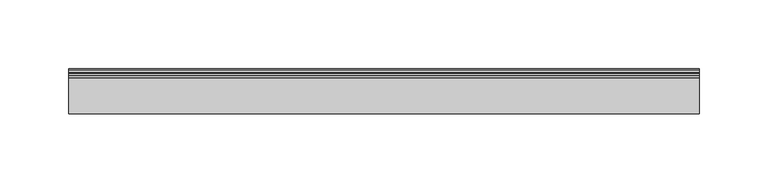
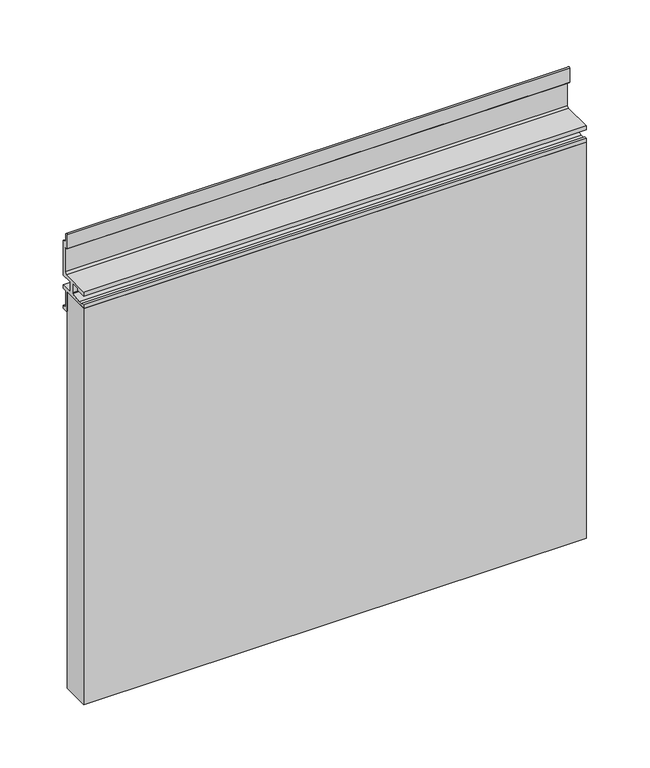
"""IFC4 building model written with IfcOpenShell, lengths in millimetres: furniture geometry, Geiger_GeigerOneCasegoods_WallTileAcceptsShelfandTileAboveFabr : 18Wx 1.25Dx 15H."""

from ifc_helpers import new_model, si_unit, point, frame, frame_2d, origin, origin_with_axes, place, context, project, spatial, polyline, circle_curve, trimmed, segment, composite_curve, outline, extrude, source, transform, mapped, element, save


def furniture_c3ae807a(model_context):
    return source(origin(), model_context, "Body", "SweptSolid", [
        extrude(outline(composite_curve([segment(polyline([(-3.5052, 46.3366), (-2.6924, 45.5238), (-0.8128, 45.5238), (0.0, 44.7364), (0.0, 31.3252)]), True, "CONTINUOUS"), segment(trimmed(circle_curve(frame_2d((-0.8034421, 31.3345579)), 0.8034966), [point((0.0, 31.3252))], [point((-1.3716, 30.7664))], False, "CARTESIAN"), True, "CONTINUOUS"), segment(polyline([(-1.3716, 30.7664), (-2.8956, 32.2904), (-2.8956, 39.2246), (-3.7084, 40.012), (-5.6134, 40.012), (-6.4008, 40.8248), (-6.4008, 72.524), (-5.1054, 72.524), (-3.5052, 70.9238), (-3.5052, 46.3366)]), True, "CONTINUOUS")], self_intersect=False)), frame((331.2, 0.0, 0.0), z_axis=(1.0, 0.0, 0.0), x_axis=(0.0, 1.0, 0.0)), (0.0, 0.0, 1.0), 76.0),
        extrude(outline(composite_curve([segment(polyline([(-2.8956, 32.2904), (-2.8956, 39.2246), (-3.7084, 40.012), (-5.6134, 40.012), (-6.4008, 40.8248), (-6.4008, 72.524), (-5.1054, 72.524), (-3.5052, 70.9238), (-3.5052, 46.3366), (-2.6924, 45.5238), (-0.8128, 45.5238), (0.0, 44.7364), (0.0, 31.3252)]), True, "CONTINUOUS"), segment(trimmed(circle_curve(frame_2d((-0.8034421, 31.3345579)), 0.8034966), [point((0.0, 31.3252))], [point((-1.3716, 30.7664))], False, "CARTESIAN"), True, "CONTINUOUS"), segment(polyline([(-1.3716, 30.7664), (-2.8956, 32.2904)]), True, "CONTINUOUS")], self_intersect=False)), frame((50.0, 0.0, 0.0), z_axis=(1.0, 0.0, 0.0), x_axis=(0.0, 1.0, 0.0)), (0.0, 0.0, 1.0), 76.0),
        extrude(outline(polyline([(457.2, -6.4008), (457.2, -32.4008), (0.0, -32.4008), (0.0, -6.4008), (457.2, -6.4008)])), origin_with_axes(), (0.0, 0.0, 1.0), 381.0),
        extrude(outline(composite_curve([segment(polyline([(-4.4958, 397.002), (-2.8956, 398.6022), (-2.8956, 421.5892), (-3.7084, 422.402), (-5.6134, 422.402), (-6.4008, 423.1894), (-6.4008, 436.6046416)]), True, "CONTINUOUS"), segment(trimmed(circle_curve(frame_2d((-5.6028762, 436.6046416)), 0.7979238), [point((-6.4008, 436.6046416))], [point((-5.0386589, 437.1688589))], False, "CARTESIAN"), True, "CONTINUOUS"), segment(polyline([(-5.0386589, 437.1688589), (-3.5052, 435.6354), (-3.5052, 428.7012), (-2.6924, 427.8884), (-0.8128, 427.8884), (0.0, 427.101), (0.0, 393.8016), (-9.6012, 393.8016), (-10.3886, 392.9888), (-10.3886, 384.9878), (-9.6012, 384.2004), (0.0, 384.2004), (0.0, 381.0), (-2.6924, 381.0), (-3.5052, 380.2126), (-3.5052, 365.7092), (-2.6924, 364.8964), (0.0, 364.8964), (0.0, 362.0008), (-5.6134, 362.0008), (-6.4008, 362.7882), (-6.4008, 381.0), (-32.4008, 381.0), (-32.4008, 384.9878), (-29.8958, 384.9878), (-29.8958, 383.3876), (-24.892, 383.3876), (-14.8082, 384.8608), (-14.4018, 385.572), (-14.4018, 393.8016), (-15.1892, 394.589), (-22.318829, 394.589), (-22.318829, 393.580771), (-22.9108, 392.9888), (-32.4008, 392.9888), (-32.4008, 397.002), (-4.4958, 397.002)]), True, "CONTINUOUS")], self_intersect=False)), frame((0.0, 0.0, 0.0), z_axis=(1.0, 0.0, 0.0), x_axis=(0.0, 1.0, 0.0)), (0.0, 0.0, 1.0), 457.2),
    ])


if __name__ == "__main__":
    model = new_model("IFC4")
    model_context = context("Model", 3, world=origin())
    ifc_project = project(units=[si_unit("LENGTHUNIT", "METRE", prefix="MILLI")], contexts=[model_context])
    site = spatial("IfcSite", under=ifc_project)
    building = spatial("IfcBuilding", under=site)
    placement = place(None, origin())
    furniture_shape = furniture_c3ae807a(model_context)
    element("IfcFurniture", 1, ObjectType="Geiger_GeigerOneCasegoods_WallTileAcceptsShelfandTileAboveFabr : 18Wx 1.25Dx 15H", at=placement, inside=building, context=model_context, shape_type="MappedRepresentation", body=[
        mapped(furniture_shape, transform((0.0, 0.0, 0.0), x_axis=(1.0, 0.0, 0.0), y_axis=(0.0, 1.0, 0.0), z_axis=(0.0, 0.0, 1.0))),
    ])
    save(model, "model.ifc")
